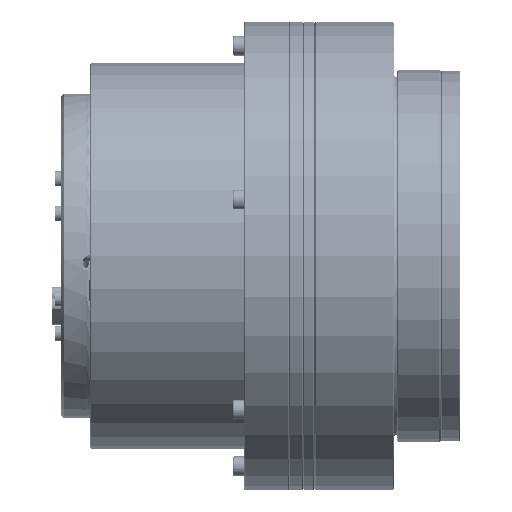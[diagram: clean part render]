
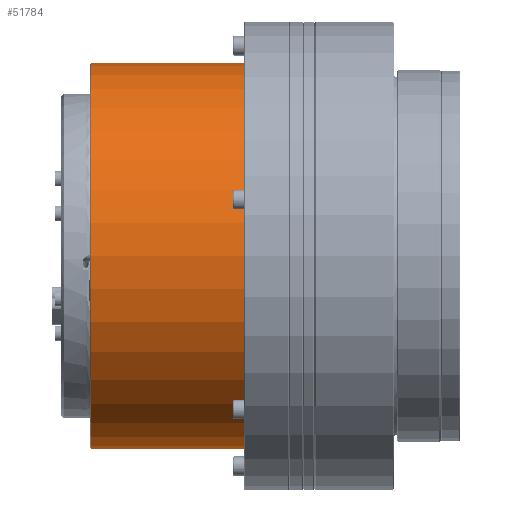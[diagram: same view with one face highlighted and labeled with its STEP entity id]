
A CAD part, front view. The second image highlights one B-rep face of the part: STEP entity #51784.
In plain terms, the highlighted cylindrical face has radius 70 mm (diameter 140 mm), a partial arc.
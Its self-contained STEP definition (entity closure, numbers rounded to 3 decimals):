
#3280 = VECTOR ( 'NONE', #111692, 1000. ) ;
#3828 = CARTESIAN_POINT ( 'NONE',  ( -25.6, 0., -70. ) ) ;
#13096 = AXIS2_PLACEMENT_3D ( 'NONE', #174990, #212179, #217245 ) ;
#19834 = LINE ( 'NONE', #194234, #177714 ) ;
#22526 = AXIS2_PLACEMENT_3D ( 'NONE', #195039, #155323, #56596 ) ;
#23907 = AXIS2_PLACEMENT_3D ( 'NONE', #196747, #157048, #195477 ) ;
#25640 = VERTEX_POINT ( 'NONE', #3828 ) ;
#34936 = VERTEX_POINT ( 'NONE', #218138 ) ;
#51784 = ADVANCED_FACE ( 'NONE', ( #96810 ), #57046, .T. ) ;
#56596 = DIRECTION ( 'NONE',  ( 0., 0., -1. ) ) ;
#57046 = CYLINDRICAL_SURFACE ( 'NONE', #13096, 70. ) ;
#63222 = ORIENTED_EDGE ( 'NONE', *, *, #165009, .F. ) ;
#66189 = ORIENTED_EDGE ( 'NONE', *, *, #241407, .F. ) ;
#93165 = CARTESIAN_POINT ( 'NONE',  ( -81., 0., 70. ) ) ;
#96810 = FACE_OUTER_BOUND ( 'NONE', #230421, .T. ) ;
#111692 = DIRECTION ( 'NONE',  ( -1., 0., 0. ) ) ;
#118158 = CIRCLE ( 'NONE', #23907, 70. ) ;
#124094 = EDGE_CURVE ( 'NONE', #251621, #237826, #223099, .T. ) ;
#127883 = ORIENTED_EDGE ( 'NONE', *, *, #124094, .T. ) ;
#130930 = CARTESIAN_POINT ( 'NONE',  ( -7.6, 0., 70. ) ) ;
#131703 = EDGE_CURVE ( 'NONE', #34936, #251621, #232094, .T. ) ;
#155323 = DIRECTION ( 'NONE',  ( 1., 0., 0. ) ) ;
#157048 = DIRECTION ( 'NONE',  ( 1., 0., 0. ) ) ;
#162085 = ORIENTED_EDGE ( 'NONE', *, *, #131703, .T. ) ;
#165009 = EDGE_CURVE ( 'NONE', #34936, #25640, #118158, .T. ) ;
#174990 = CARTESIAN_POINT ( 'NONE',  ( -7.6, 0., 0. ) ) ;
#177527 = DIRECTION ( 'NONE',  ( -1., 0., 0. ) ) ;
#177714 = VECTOR ( 'NONE', #177527, 1000. ) ;
#194234 = CARTESIAN_POINT ( 'NONE',  ( -7.6, 0., -70. ) ) ;
#195039 = CARTESIAN_POINT ( 'NONE',  ( -81., 0., 0. ) ) ;
#195477 = DIRECTION ( 'NONE',  ( 0., 0., 1. ) ) ;
#196747 = CARTESIAN_POINT ( 'NONE',  ( -25.6, 0., 0. ) ) ;
#212179 = DIRECTION ( 'NONE',  ( -1., 0., 0. ) ) ;
#217245 = DIRECTION ( 'NONE',  ( 0., 0., -1. ) ) ;
#218138 = CARTESIAN_POINT ( 'NONE',  ( -25.6, 0., 70. ) ) ;
#223099 = CIRCLE ( 'NONE', #22526, 70. ) ;
#230421 = EDGE_LOOP ( 'NONE', ( #63222, #162085, #127883, #66189 ) ) ;
#232094 = LINE ( 'NONE', #130930, #3280 ) ;
#237826 = VERTEX_POINT ( 'NONE', #238341 ) ;
#238341 = CARTESIAN_POINT ( 'NONE',  ( -81., 0., -70. ) ) ;
#241407 = EDGE_CURVE ( 'NONE', #25640, #237826, #19834, .T. ) ;
#251621 = VERTEX_POINT ( 'NONE', #93165 ) ;
